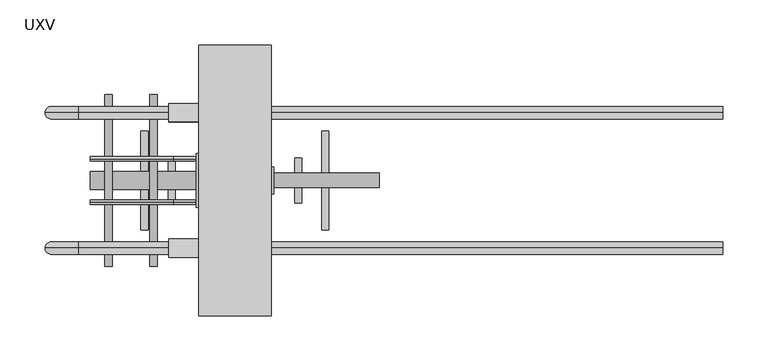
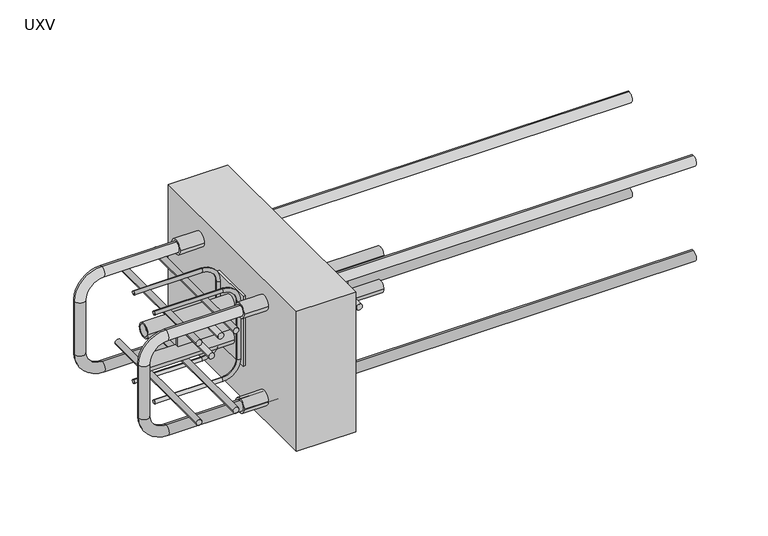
"""IFC4 building model written with IfcOpenShell, lengths in millimetres: proxy geometry, ACINOXplus_Typenreihe_UX : UXV."""

from ifc_helpers import new_model, si_unit, point, frame, frame_2d, origin, place, context, project, spatial, polyline, circle_curve, ellipse_curve, trimmed, segment, composite_curve, outline, extrude, source, transform, mapped, element, save
from ifc_brep_helpers import plane_surface, cylinder_surface, revolved_surface, advanced_brep


def uxv_ace92e51(model_context):
    return source(origin(), model_context, "Body", "SolidModel", [
        extrude(outline(composite_curve([segment(trimmed(circle_curve(frame_2d((-100.0, -100.0)), 4.0), [point((-100.0, -104.0))], [point((-100.0, -96.0))], False, "CARTESIAN"), True, "CONTINUOUS"), segment(trimmed(circle_curve(frame_2d((-100.0, -100.0)), 4.0), [point((-100.0, -96.0))], [point((-100.0, -104.0))], False, "CARTESIAN"), True, "CONTINUOUS")], self_intersect=False)), frame((0.0, -55.0, 0.0), z_axis=(0.0, 1.0, 0.0), x_axis=(0.0, 0.0, 1.0)), (0.0, 0.0, 1.0), 110.0),
        extrude(outline(composite_curve([segment(trimmed(circle_curve(frame_2d((-100.0, -70.0)), 4.0), [point((-100.0, -74.0))], [point((-100.0, -66.0))], False, "CARTESIAN"), True, "CONTINUOUS"), segment(trimmed(circle_curve(frame_2d((-100.0, -70.0)), 4.0), [point((-100.0, -66.0))], [point((-100.0, -74.0))], False, "CARTESIAN"), True, "CONTINUOUS")], self_intersect=False)), frame((0.0, -25.0, 0.0), z_axis=(0.0, 1.0, 0.0), x_axis=(0.0, 0.0, 1.0)), (0.0, 0.0, 1.0), 50.0),
        extrude(outline(composite_curve([segment(trimmed(circle_curve(frame_2d((-100.0, 70.0)), 4.0), [point((-100.0, 66.0))], [point((-100.0, 74.0))], False, "CARTESIAN"), True, "CONTINUOUS"), segment(trimmed(circle_curve(frame_2d((-100.0, 70.0)), 4.0), [point((-100.0, 74.0))], [point((-100.0, 66.0))], False, "CARTESIAN"), True, "CONTINUOUS")], self_intersect=False)), frame((0.0, -25.0, 0.0), z_axis=(0.0, 1.0, 0.0), x_axis=(0.0, 0.0, 1.0)), (0.0, 0.0, 1.0), 50.0),
        extrude(outline(composite_curve([segment(trimmed(circle_curve(frame_2d((-100.0, 100.0)), 4.0), [point((-100.0, 96.0))], [point((-100.0, 104.0))], False, "CARTESIAN"), True, "CONTINUOUS"), segment(trimmed(circle_curve(frame_2d((-100.0, 100.0)), 4.0), [point((-100.0, 104.0))], [point((-100.0, 96.0))], False, "CARTESIAN"), True, "CONTINUOUS")], self_intersect=False)), frame((0.0, -55.0, 0.0), z_axis=(0.0, 1.0, 0.0), x_axis=(0.0, 0.0, 1.0)), (0.0, 0.0, 1.0), 110.0),
        extrude(outline(composite_curve([segment(trimmed(circle_curve(frame_2d((0.0, -124.0)), 8.0), [point((8.0, -124.0))], [point((-8.0, -124.0))], False, "CARTESIAN"), True, "CONTINUOUS"), segment(trimmed(circle_curve(frame_2d((0.0, -124.0)), 8.0), [point((-8.0, -124.0))], [point((8.0, -124.0))], False, "CARTESIAN"), True, "CONTINUOUS")], self_intersect=False)), frame((-160.0, 0.0, 0.0), z_axis=(1.0, 0.0, 0.0), x_axis=(0.0, 1.0, 0.0)), (0.0, 0.0, 1.0), 320.0),
        extrude(outline(composite_curve([segment(trimmed(circle_curve(frame_2d((0.0, -76.0)), 8.0), [point((8.0, -76.0))], [point((-8.0, -76.0))], False, "CARTESIAN"), True, "CONTINUOUS"), segment(trimmed(circle_curve(frame_2d((0.0, -76.0)), 8.0), [point((-8.0, -76.0))], [point((8.0, -76.0))], False, "CARTESIAN"), True, "CONTINUOUS")], self_intersect=False)), frame((-160.0, 0.0, 0.0), z_axis=(1.0, 0.0, 0.0), x_axis=(0.0, 1.0, 0.0)), (0.0, 0.0, 1.0), 320.0),
        advanced_brep(
        [(-43.0, -30.0, -49.8262299), (-43.0, 30.0, -49.8262299), (-43.0, 30.0, -150.0), (-43.0, -30.0, -150.0), (-43.0, -10.0, -76.0), (-43.0, 10.0, -76.0), (-43.0, -10.0, -124.0), (-43.0, 10.0, -124.0), (-43.0, -8.0, -76.0), (-43.0, 8.0, -76.0), (-43.0, -8.0, -124.0), (-43.0, 8.0, -124.0), (-40.0, -30.0, -49.8262299), (-40.0, -30.0, -150.0), (-40.0, 30.0, -150.0), (-40.0, 30.0, -49.8262299), (-160.0, 10.0, -76.0), (-160.0, -10.0, -76.0), (-160.0, 8.0, -76.0), (-160.0, -8.0, -76.0), (-160.0, 10.0, -124.0), (-160.0, -10.0, -124.0), (-160.0, 8.0, -124.0), (-160.0, -8.0, -124.0)],
        [
            (0, 1),
            (1, 2),
            (2, 3),
            (3, 0),
            (4, 5, circle_curve(frame((-43.0, 0.0, -76.0), z_axis=(1.0, 0.0, 0.0), x_axis=(0.0, -1.0, 0.0)), 10.0)),
            (5, 4, circle_curve(frame((-43.0, 0.0, -76.0), z_axis=(1.0, 0.0, 0.0), x_axis=(0.0, -1.0, 0.0)), 10.0)),
            (6, 7, circle_curve(frame((-43.0, 0.0, -124.0), z_axis=(1.0, 0.0, 0.0), x_axis=(0.0, -1.0, 0.0)), 10.0)),
            (7, 6, circle_curve(frame((-43.0, 0.0, -124.0), z_axis=(1.0, 0.0, 0.0), x_axis=(0.0, -1.0, 0.0)), 10.0)),
            (8, 9, circle_curve(frame((-43.0, 0.0, -76.0), z_axis=(-1.0, 0.0, 0.0), x_axis=(0.0, -1.0, 0.0)), 8.0)),
            (9, 8, circle_curve(frame((-43.0, 0.0, -76.0), z_axis=(-1.0, 0.0, 0.0), x_axis=(0.0, -1.0, 0.0)), 8.0)),
            (10, 11, circle_curve(frame((-43.0, 0.0, -124.0), z_axis=(-1.0, 0.0, 0.0), x_axis=(0.0, -1.0, 0.0)), 8.0)),
            (11, 10, circle_curve(frame((-43.0, 0.0, -124.0), z_axis=(-1.0, 0.0, 0.0), x_axis=(0.0, -1.0, 0.0)), 8.0)),
            (12, 13),
            (13, 14),
            (14, 15),
            (15, 12),
            (0, 12),
            (15, 1),
            (14, 2),
            (13, 3),
            (16, 17, circle_curve(frame((-160.0, 0.0, -76.0), z_axis=(-1.0, 0.0, 0.0), x_axis=(0.0, -1.0, 0.0)), 10.0)),
            (17, 16, circle_curve(frame((-160.0, 0.0, -76.0), z_axis=(-1.0, 0.0, 0.0), x_axis=(0.0, -1.0, 0.0)), 10.0)),
            (18, 19, circle_curve(frame((-160.0, 0.0, -76.0), z_axis=(1.0, 0.0, 0.0), x_axis=(0.0, -1.0, 0.0)), 8.0)),
            (19, 18, circle_curve(frame((-160.0, 0.0, -76.0), z_axis=(1.0, 0.0, 0.0), x_axis=(0.0, -1.0, 0.0)), 8.0)),
            (20, 21, circle_curve(frame((-160.0, 0.0, -124.0), z_axis=(-1.0, 0.0, 0.0), x_axis=(0.0, -1.0, 0.0)), 10.0)),
            (21, 20, circle_curve(frame((-160.0, 0.0, -124.0), z_axis=(-1.0, 0.0, 0.0), x_axis=(0.0, -1.0, 0.0)), 10.0)),
            (22, 23, circle_curve(frame((-160.0, 0.0, -124.0), z_axis=(1.0, 0.0, 0.0), x_axis=(0.0, -1.0, 0.0)), 8.0)),
            (23, 22, circle_curve(frame((-160.0, 0.0, -124.0), z_axis=(1.0, 0.0, 0.0), x_axis=(0.0, -1.0, 0.0)), 8.0)),
            (18, 9),
            (8, 19),
            (22, 11),
            (10, 23),
            (16, 5),
            (4, 17),
            (20, 7),
            (6, 21),
        ],
        [
            plane_surface(frame((-43.0, 30.0, -49.8262299), z_axis=(-1.0, 0.0, 0.0), x_axis=(0.0, 1.0, 0.0))),
            plane_surface(frame((-40.0, 30.0, -49.8262299), z_axis=(1.0, 0.0, 0.0), x_axis=(0.0, -1.0, 0.0))),
            plane_surface(frame((-43.0, -30.0, -49.8262299), z_axis=(0.0, 0.0, 1.0), x_axis=(1.0, 0.0, 0.0))),
            plane_surface(frame((-43.0, 30.0, -49.8262299), z_axis=(0.0, 1.0, 0.0), x_axis=(1.0, 0.0, 0.0))),
            plane_surface(frame((-43.0, 30.0, -150.0), z_axis=(0.0, 0.0, -1.0), x_axis=(1.0, 0.0, 0.0))),
            plane_surface(frame((-43.0, -30.0, -150.0), z_axis=(0.0, -1.0, 0.0), x_axis=(1.0, 0.0, 0.0))),
            plane_surface(frame((-160.0, -8.0, -76.0), z_axis=(-1.0, 0.0, 0.0), x_axis=(0.0, 0.0, -1.0))),
            revolved_surface(polyline([(-43.0, -8.0, -76.0), (-160.0, -8.0, -76.0)]), (-43.0, 0.0, -76.0), (1.0, 0.0, 0.0)),
            revolved_surface(polyline([(-43.0, -8.0, -124.0), (-160.0, -8.0, -124.0)]), (0.0, 0.0, -124.0), (1.0, 0.0, 0.0)),
            cylinder_surface(frame((0.0, 0.0, -76.0), z_axis=(-1.0, 0.0, 0.0), x_axis=(0.0, -1.0, 0.0)), 10.0),
            cylinder_surface(frame((0.0, 0.0, -124.0), z_axis=(-1.0, 0.0, 0.0), x_axis=(0.0, -1.0, 0.0)), 10.0),
        ],
        [
            (0, [[1, 2, 3, 4], [5, 6], [7, 8]]),
            (0, [[9, 10]]),
            (0, [[11, 12]]),
            (1, [[13, 14, 15, 16]]),
            (2, [[-1, 17, -16, 18]]),
            (3, [[-2, -18, -15, 19]]),
            (4, [[-3, -19, -14, 20]]),
            (5, [[-4, -20, -13, -17]]),
            (6, [[21, 22], [23, 24]]),
            (6, [[25, 26], [27, 28]]),
            (7, [[-23, 29, -9, 30]]),
            (7, [[-24, -30, -10, -29]]),
            (8, [[-27, 31, -11, 32]]),
            (8, [[-28, -32, -12, -31]]),
            (9, [[-21, 33, -5, 34]]),
            (9, [[-22, -34, -6, -33]]),
            (10, [[-25, 35, -7, 36]]),
            (10, [[-26, -36, -8, -35]]),
        ],
    ),
        extrude(outline(composite_curve([segment(polyline([(15.0, -62.6944568), (15.0, -137.3055432)]), True, "CONTINUOUS"), segment(trimmed(circle_curve(frame_2d((0.0, -74.05999)), 65.0), [point((15.0, -137.3055432))], [point((-15.0, -137.3055432))], False, "CARTESIAN"), True, "CONTINUOUS"), segment(polyline([(-15.0, -137.3055432), (-15.0, -62.6944568)]), True, "CONTINUOUS"), segment(trimmed(circle_curve(frame_2d((0.0, -125.94001)), 65.0), [point((-15.0, -62.6944568))], [point((15.0, -62.6944568))], False, "CARTESIAN"), True, "CONTINUOUS")], self_intersect=False)), frame((40.0, 0.0, 0.0), z_axis=(1.0, 0.0, 0.0), x_axis=(0.0, 1.0, 0.0)), (0.0, 0.0, 1.0), 3.0254417),
        extrude(outline(polyline([(-115.0, 2.0), (115.0, 2.0), (115.0, -2.0), (-115.0, -2.0), (-115.0, 2.0)])), frame((0.0, 0.0, -124.0), z_axis=(0.0, 0.0, 1.0), x_axis=(1.0, 0.0, 0.0)), (0.0, 0.0, 1.0), 48.0),
        extrude(outline(composite_curve([segment(trimmed(circle_curve(frame_2d((-157.0, -90.0)), 4.0), [point((-157.0, -86.0))], [point((-157.0, -94.0))], False, "CARTESIAN"), True, "CONTINUOUS"), segment(trimmed(circle_curve(frame_2d((-157.0, -90.0)), 4.0), [point((-157.0, -94.0))], [point((-157.0, -86.0))], False, "CARTESIAN"), True, "CONTINUOUS")], self_intersect=False)), frame((0.0, -95.0, 0.0), z_axis=(0.0, 1.0, 0.0), x_axis=(0.0, 0.0, 1.0)), (0.0, 0.0, 1.0), 190.0),
        extrude(outline(composite_curve([segment(trimmed(circle_curve(frame_2d((-43.0, -90.0)), 4.0), [point((-43.0, -86.0))], [point((-43.0, -94.0))], False, "CARTESIAN"), True, "CONTINUOUS"), segment(trimmed(circle_curve(frame_2d((-43.0, -90.0)), 4.0), [point((-43.0, -94.0))], [point((-43.0, -86.0))], False, "CARTESIAN"), True, "CONTINUOUS")], self_intersect=False)), frame((0.0, -95.0, 0.0), z_axis=(0.0, 1.0, 0.0), x_axis=(0.0, 0.0, 1.0)), (0.0, 0.0, 1.0), 190.0),
        extrude(outline(composite_curve([segment(trimmed(circle_curve(frame_2d((-43.0, -140.0)), 4.0), [point((-43.0, -136.0))], [point((-43.0, -144.0))], False, "CARTESIAN"), True, "CONTINUOUS"), segment(trimmed(circle_curve(frame_2d((-43.0, -140.0)), 4.0), [point((-43.0, -144.0))], [point((-43.0, -136.0))], False, "CARTESIAN"), True, "CONTINUOUS")], self_intersect=False)), frame((0.0, -95.0, 0.0), z_axis=(0.0, 1.0, 0.0), x_axis=(0.0, 0.0, 1.0)), (0.0, 0.0, 1.0), 190.0),
        extrude(outline(composite_curve([segment(trimmed(circle_curve(frame_2d((-157.0, -140.0)), 4.0), [point((-157.0, -136.0))], [point((-157.0, -144.0))], False, "CARTESIAN"), True, "CONTINUOUS"), segment(trimmed(circle_curve(frame_2d((-157.0, -140.0)), 4.0), [point((-157.0, -144.0))], [point((-157.0, -136.0))], False, "CARTESIAN"), True, "CONTINUOUS")], self_intersect=False)), frame((0.0, -95.0, 0.0), z_axis=(0.0, 1.0, 0.0), x_axis=(0.0, 0.0, 1.0)), (0.0, 0.0, 1.0), 190.0),
        extrude(outline(polyline([(40.0, 150.0), (40.0, -150.0), (-40.0, -150.0), (-40.0, 150.0), (40.0, 150.0)])), frame((0.0, 0.0, -200.0), z_axis=(0.0, 0.0, 1.0), x_axis=(1.0, 0.0, 0.0)), (0.0, 0.0, 1.0), 200.0),
        advanced_brep(
        [(540.0, 75.0, -25.0), (540.0, 75.0, -39.0), (-173.0, 75.0, -25.0), (-173.0, 75.0, -39.0), (-196.0, 75.0, -62.0), (-210.0, 75.0, -62.0), (-210.0, 75.0, -138.0), (-196.0, 75.0, -138.0), (-173.0, 75.0, -161.0), (-173.0, 75.0, -175.0), (540.0, 75.0, -175.0), (540.0, 75.0, -161.0)],
        [
            (0, 1, circle_curve(frame((540.0, 75.0, -32.0), z_axis=(1.0, 0.0, 0.0), x_axis=(0.0, 0.0, -1.0)), 7.0)),
            (1, 0, circle_curve(frame((540.0, 75.0, -32.0), z_axis=(1.0, 0.0, 0.0), x_axis=(0.0, 0.0, -1.0)), 7.0)),
            (0, 2),
            (2, 3, circle_curve(frame((-173.0, 75.0, -32.0), z_axis=(1.0, 0.0, 0.0), x_axis=(0.0, 0.0, -1.0)), 7.0)),
            (3, 1),
            (3, 2, circle_curve(frame((-173.0, 75.0, -32.0), z_axis=(1.0, 0.0, 0.0), x_axis=(0.0, 0.0, -1.0)), 7.0)),
            (4, 3, circle_curve(frame((-173.0, 75.0, -62.0), z_axis=(0.0, 1.0, 0.0), x_axis=(0.0, 0.0, 1.0)), 23.0)),
            (2, 5, circle_curve(frame((-173.0, 75.0, -62.0), z_axis=(0.0, -1.0, 0.0), x_axis=(0.0, 0.0, 1.0)), 37.0)),
            (5, 4, circle_curve(frame((-203.0, 75.0, -62.0), z_axis=(0.0, 0.0, 1.0), x_axis=(1.0, 0.0, 0.0)), 7.0)),
            (4, 5, circle_curve(frame((-203.0, 75.0, -62.0), z_axis=(0.0, 0.0, 1.0), x_axis=(1.0, 0.0, 0.0)), 7.0)),
            (5, 6),
            (6, 7, circle_curve(frame((-203.0, 75.0, -138.0), z_axis=(0.0, 0.0, 1.0), x_axis=(1.0, 0.0, 0.0)), 7.0)),
            (7, 4),
            (7, 6, circle_curve(frame((-203.0, 75.0, -138.0), z_axis=(0.0, 0.0, 1.0), x_axis=(1.0, 0.0, 0.0)), 7.0)),
            (8, 7, circle_curve(frame((-173.0, 75.0, -138.0), z_axis=(0.0, 1.0, 0.0), x_axis=(-1.0, 0.0, 0.0)), 23.0)),
            (6, 9, circle_curve(frame((-173.0, 75.0, -138.0), z_axis=(0.0, -1.0, 0.0), x_axis=(-1.0, 0.0, 0.0)), 37.0)),
            (9, 8, circle_curve(frame((-173.0, 75.0, -168.0), z_axis=(-1.0, 0.0, 0.0), x_axis=(0.0, 0.0, 1.0)), 7.0)),
            (8, 9, circle_curve(frame((-173.0, 75.0, -168.0), z_axis=(-1.0, 0.0, 0.0), x_axis=(0.0, 0.0, 1.0)), 7.0)),
            (10, 11, circle_curve(frame((540.0, 75.0, -168.0), z_axis=(1.0, 0.0, 0.0), x_axis=(0.0, 0.0, 1.0)), 7.0)),
            (11, 10, circle_curve(frame((540.0, 75.0, -168.0), z_axis=(1.0, 0.0, 0.0), x_axis=(0.0, 0.0, 1.0)), 7.0)),
            (9, 10),
            (11, 8),
        ],
        [
            plane_surface(frame((540.0, 75.0, -32.0), z_axis=(1.0, 0.0, 0.0), x_axis=(0.0, -1.0, 0.0))),
            cylinder_surface(frame((540.0, 75.0, -32.0), z_axis=(1.0, 0.0, 0.0), x_axis=(0.0, 0.0, -1.0)), 7.0),
            revolved_surface(trimmed(ellipse_curve(frame((-173.0, 75.0, -32.0), z_axis=(1.0, 0.0, 0.0), x_axis=(0.0, 0.0, -1.0)), 7.0, 7.0), [point((-173.0, 75.0, -25.0))], [point((-173.0, 75.0, -39.0))], True, "CARTESIAN"), (-173.0, 75.0, -62.0), (0.0, -1.0, 0.0)),
            revolved_surface(trimmed(ellipse_curve(frame((-173.0, 75.0, -32.0), z_axis=(1.0, 0.0, 0.0), x_axis=(0.0, 0.0, -1.0)), 7.0, 7.0), [point((-173.0, 75.0, -39.0))], [point((-173.0, 75.0, -25.0))], True, "CARTESIAN"), (-173.0, 75.0, -62.0), (0.0, -1.0, 0.0)),
            cylinder_surface(frame((-203.0, 75.0, -62.0), z_axis=(0.0, 0.0, 1.0), x_axis=(1.0, 0.0, 0.0)), 7.0),
            revolved_surface(trimmed(ellipse_curve(frame((-203.0, 75.0, -138.0), z_axis=(0.0, 0.0, 1.0), x_axis=(1.0, 0.0, 0.0)), 7.0, 7.0), [point((-210.0, 75.0, -138.0))], [point((-196.0, 75.0, -138.0))], True, "CARTESIAN"), (-173.0, 75.0, -138.0), (0.0, -1.0, 0.0)),
            revolved_surface(trimmed(ellipse_curve(frame((-203.0, 75.0, -138.0), z_axis=(0.0, 0.0, 1.0), x_axis=(1.0, 0.0, 0.0)), 7.0, 7.0), [point((-196.0, 75.0, -138.0))], [point((-210.0, 75.0, -138.0))], True, "CARTESIAN"), (-173.0, 75.0, -138.0), (0.0, -1.0, 0.0)),
            plane_surface(frame((540.0, 75.0, -168.0), z_axis=(1.0, 0.0, 0.0), x_axis=(0.0, -1.0, 0.0))),
            cylinder_surface(frame((-173.0, 75.0, -168.0), z_axis=(-1.0, 0.0, 0.0), x_axis=(0.0, 0.0, 1.0)), 7.0),
        ],
        [
            (0, [[1, 2]]),
            (1, [[-1, 3, 4, 5]]),
            (1, [[-2, -5, 6, -3]]),
            (2, [[7, -4, 8, 9]]),
            (3, [[-8, -6, -7, 10]]),
            (4, [[-9, 11, 12, 13]]),
            (4, [[-10, -13, 14, -11]]),
            (5, [[15, -12, 16, 17]]),
            (6, [[-16, -14, -15, 18]]),
            (7, [[19, 20]]),
            (8, [[-17, 21, -20, 22]]),
            (8, [[-18, -22, -19, -21]]),
        ],
    ),
        advanced_brep(
        [(540.0, -75.0, -25.0), (540.0, -75.0, -39.0), (-173.0, -75.0, -25.0), (-173.0, -75.0, -39.0), (-196.0, -75.0, -62.0), (-210.0, -75.0, -62.0), (-210.0, -75.0, -138.0), (-196.0, -75.0, -138.0), (-173.0, -75.0, -161.0), (-173.0, -75.0, -175.0), (540.0, -75.0, -175.0), (540.0, -75.0, -161.0)],
        [
            (0, 1, circle_curve(frame((540.0, -75.0, -32.0), z_axis=(1.0, 0.0, 0.0), x_axis=(0.0, 0.0, -1.0)), 7.0)),
            (1, 0, circle_curve(frame((540.0, -75.0, -32.0), z_axis=(1.0, 0.0, 0.0), x_axis=(0.0, 0.0, -1.0)), 7.0)),
            (0, 2),
            (2, 3, circle_curve(frame((-173.0, -75.0, -32.0), z_axis=(1.0, 0.0, 0.0), x_axis=(0.0, 0.0, -1.0)), 7.0)),
            (3, 1),
            (3, 2, circle_curve(frame((-173.0, -75.0, -32.0), z_axis=(1.0, 0.0, 0.0), x_axis=(0.0, 0.0, -1.0)), 7.0)),
            (4, 3, circle_curve(frame((-173.0, -75.0, -62.0), z_axis=(0.0, 1.0, 0.0), x_axis=(0.0, 0.0, 1.0)), 23.0)),
            (2, 5, circle_curve(frame((-173.0, -75.0, -62.0), z_axis=(0.0, -1.0, 0.0), x_axis=(0.0, 0.0, 1.0)), 37.0)),
            (5, 4, circle_curve(frame((-203.0, -75.0, -62.0), z_axis=(0.0, 0.0, 1.0), x_axis=(1.0, 0.0, 0.0)), 7.0)),
            (4, 5, circle_curve(frame((-203.0, -75.0, -62.0), z_axis=(0.0, 0.0, 1.0), x_axis=(1.0, 0.0, 0.0)), 7.0)),
            (5, 6),
            (6, 7, circle_curve(frame((-203.0, -75.0, -138.0), z_axis=(0.0, 0.0, 1.0), x_axis=(1.0, 0.0, 0.0)), 7.0)),
            (7, 4),
            (7, 6, circle_curve(frame((-203.0, -75.0, -138.0), z_axis=(0.0, 0.0, 1.0), x_axis=(1.0, 0.0, 0.0)), 7.0)),
            (8, 7, circle_curve(frame((-173.0, -75.0, -138.0), z_axis=(0.0, 1.0, 0.0), x_axis=(-1.0, 0.0, 0.0)), 23.0)),
            (6, 9, circle_curve(frame((-173.0, -75.0, -138.0), z_axis=(0.0, -1.0, 0.0), x_axis=(-1.0, 0.0, 0.0)), 37.0)),
            (9, 8, circle_curve(frame((-173.0, -75.0, -168.0), z_axis=(-1.0, 0.0, 0.0), x_axis=(0.0, 0.0, 1.0)), 7.0)),
            (8, 9, circle_curve(frame((-173.0, -75.0, -168.0), z_axis=(-1.0, 0.0, 0.0), x_axis=(0.0, 0.0, 1.0)), 7.0)),
            (10, 11, circle_curve(frame((540.0, -75.0, -168.0), z_axis=(1.0, 0.0, 0.0), x_axis=(0.0, 0.0, 1.0)), 7.0)),
            (11, 10, circle_curve(frame((540.0, -75.0, -168.0), z_axis=(1.0, 0.0, 0.0), x_axis=(0.0, 0.0, 1.0)), 7.0)),
            (9, 10),
            (11, 8),
        ],
        [
            plane_surface(frame((540.0, -75.0, -32.0), z_axis=(1.0, 0.0, 0.0), x_axis=(0.0, -1.0, 0.0))),
            cylinder_surface(frame((540.0, -75.0, -32.0), z_axis=(1.0, 0.0, 0.0), x_axis=(0.0, 0.0, -1.0)), 7.0),
            revolved_surface(trimmed(ellipse_curve(frame((-173.0, -75.0, -32.0), z_axis=(1.0, 0.0, 0.0), x_axis=(0.0, 0.0, -1.0)), 7.0, 7.0), [point((-173.0, -75.0, -25.0))], [point((-173.0, -75.0, -39.0))], True, "CARTESIAN"), (-173.0, -75.0, -62.0), (0.0, -1.0, 0.0)),
            revolved_surface(trimmed(ellipse_curve(frame((-173.0, -75.0, -32.0), z_axis=(1.0, 0.0, 0.0), x_axis=(0.0, 0.0, -1.0)), 7.0, 7.0), [point((-173.0, -75.0, -39.0))], [point((-173.0, -75.0, -25.0))], True, "CARTESIAN"), (-173.0, -75.0, -62.0), (0.0, -1.0, 0.0)),
            cylinder_surface(frame((-203.0, -75.0, -62.0), z_axis=(0.0, 0.0, 1.0), x_axis=(1.0, 0.0, 0.0)), 7.0),
            revolved_surface(trimmed(ellipse_curve(frame((-203.0, -75.0, -138.0), z_axis=(0.0, 0.0, 1.0), x_axis=(1.0, 0.0, 0.0)), 7.0, 7.0), [point((-210.0, -75.0, -138.0))], [point((-196.0, -75.0, -138.0))], True, "CARTESIAN"), (-173.0, -75.0, -138.0), (0.0, -1.0, 0.0)),
            revolved_surface(trimmed(ellipse_curve(frame((-203.0, -75.0, -138.0), z_axis=(0.0, 0.0, 1.0), x_axis=(1.0, 0.0, 0.0)), 7.0, 7.0), [point((-196.0, -75.0, -138.0))], [point((-210.0, -75.0, -138.0))], True, "CARTESIAN"), (-173.0, -75.0, -138.0), (0.0, -1.0, 0.0)),
            plane_surface(frame((540.0, -75.0, -168.0), z_axis=(1.0, 0.0, 0.0), x_axis=(0.0, -1.0, 0.0))),
            cylinder_surface(frame((-173.0, -75.0, -168.0), z_axis=(-1.0, 0.0, 0.0), x_axis=(0.0, 0.0, 1.0)), 7.0),
        ],
        [
            (0, [[1, 2]]),
            (1, [[-1, 3, 4, 5]]),
            (1, [[-2, -5, 6, -3]]),
            (2, [[7, -4, 8, 9]]),
            (3, [[-8, -6, -7, 10]]),
            (4, [[-9, 11, 12, 13]]),
            (4, [[-10, -13, 14, -11]]),
            (5, [[15, -12, 16, 17]]),
            (6, [[-16, -14, -15, 18]]),
            (7, [[19, 20]]),
            (8, [[-17, 21, -20, 22]]),
            (8, [[-18, -22, -19, -21]]),
        ],
    ),
        extrude(outline(composite_curve([segment(trimmed(circle_curve(frame_2d((75.0, -168.0)), 10.0), [point((65.0, -168.0))], [point((85.0, -168.0))], False, "CARTESIAN"), True, "CONTINUOUS"), segment(trimmed(circle_curve(frame_2d((75.0, -168.0)), 10.0), [point((85.0, -168.0))], [point((65.0, -168.0))], False, "CARTESIAN"), True, "CONTINUOUS")], self_intersect=False), holes=[composite_curve([segment(trimmed(circle_curve(frame_2d((75.0, -168.0)), 7.0), [point((68.0, -168.0))], [point((82.0, -168.0))], True, "CARTESIAN"), True, "CONTINUOUS"), segment(trimmed(circle_curve(frame_2d((75.0, -168.0)), 7.0), [point((82.0, -168.0))], [point((68.0, -168.0))], True, "CARTESIAN"), True, "CONTINUOUS")], self_intersect=False)]), frame((-73.0, 0.0, 0.0), z_axis=(1.0, 0.0, 0.0), x_axis=(0.0, 1.0, 0.0)), (0.0, 0.0, 1.0), 33.0),
        extrude(outline(composite_curve([segment(trimmed(circle_curve(frame_2d((-75.0, -168.0)), 10.0), [point((-85.0, -168.0))], [point((-65.0, -168.0))], False, "CARTESIAN"), True, "CONTINUOUS"), segment(trimmed(circle_curve(frame_2d((-75.0, -168.0)), 10.0), [point((-65.0, -168.0))], [point((-85.0, -168.0))], False, "CARTESIAN"), True, "CONTINUOUS")], self_intersect=False), holes=[composite_curve([segment(trimmed(circle_curve(frame_2d((-75.0, -168.0)), 7.0), [point((-82.0, -168.0))], [point((-68.0, -168.0))], True, "CARTESIAN"), True, "CONTINUOUS"), segment(trimmed(circle_curve(frame_2d((-75.0, -168.0)), 7.0), [point((-68.0, -168.0))], [point((-82.0, -168.0))], True, "CARTESIAN"), True, "CONTINUOUS")], self_intersect=False)]), frame((-73.0, 0.0, 0.0), z_axis=(1.0, 0.0, 0.0), x_axis=(0.0, 1.0, 0.0)), (0.0, 0.0, 1.0), 33.0),
        extrude(outline(composite_curve([segment(trimmed(circle_curve(frame_2d((-75.0, -32.0)), 10.0), [point((-85.0, -32.0))], [point((-65.0, -32.0))], False, "CARTESIAN"), True, "CONTINUOUS"), segment(trimmed(circle_curve(frame_2d((-75.0, -32.0)), 10.0), [point((-65.0, -32.0))], [point((-85.0, -32.0))], False, "CARTESIAN"), True, "CONTINUOUS")], self_intersect=False), holes=[composite_curve([segment(trimmed(circle_curve(frame_2d((-75.0, -32.0)), 7.0), [point((-82.0, -32.0))], [point((-68.0, -32.0))], True, "CARTESIAN"), True, "CONTINUOUS"), segment(trimmed(circle_curve(frame_2d((-75.0, -32.0)), 7.0), [point((-68.0, -32.0))], [point((-82.0, -32.0))], True, "CARTESIAN"), True, "CONTINUOUS")], self_intersect=False)]), frame((-73.0, 0.0, 0.0), z_axis=(1.0, 0.0, 0.0), x_axis=(0.0, 1.0, 0.0)), (0.0, 0.0, 1.0), 33.0),
        extrude(outline(composite_curve([segment(trimmed(circle_curve(frame_2d((75.0, -32.0)), 10.0), [point((65.0, -32.0))], [point((85.0, -32.0))], False, "CARTESIAN"), True, "CONTINUOUS"), segment(trimmed(circle_curve(frame_2d((75.0, -32.0)), 10.0), [point((85.0, -32.0))], [point((65.0, -32.0))], False, "CARTESIAN"), True, "CONTINUOUS")], self_intersect=False), holes=[composite_curve([segment(trimmed(circle_curve(frame_2d((75.0, -32.0)), 7.0), [point((68.0, -32.0))], [point((82.0, -32.0))], True, "CARTESIAN"), True, "CONTINUOUS"), segment(trimmed(circle_curve(frame_2d((75.0, -32.0)), 7.0), [point((82.0, -32.0))], [point((68.0, -32.0))], True, "CARTESIAN"), True, "CONTINUOUS")], self_intersect=False)]), frame((-73.0, 0.0, 0.0), z_axis=(1.0, 0.0, 0.0), x_axis=(0.0, 1.0, 0.0)), (0.0, 0.0, 1.0), 33.0),
        advanced_brep(
        [(-160.0, -24.0, -34.0), (-160.0, -24.0, -39.0), (-160.0, -24.0, -166.0), (-160.0, -24.0, -161.0), (-68.0, -24.0, -34.0), (-68.0, -24.0, -39.0), (-48.0, -24.0, -59.0), (-43.0, -24.0, -59.0), (-43.0, -24.0, -141.0), (-48.0, -24.0, -141.0), (-68.0, -24.0, -161.0), (-68.0, -24.0, -166.0)],
        [
            (0, 1, circle_curve(frame((-160.0, -24.0, -36.5), z_axis=(-1.0, 0.0, 0.0), x_axis=(0.0, 0.0, -1.0)), 2.5)),
            (1, 0, circle_curve(frame((-160.0, -24.0, -36.5), z_axis=(-1.0, 0.0, 0.0), x_axis=(0.0, 0.0, -1.0)), 2.5)),
            (2, 3, circle_curve(frame((-160.0, -24.0, -163.5), z_axis=(-1.0, 0.0, 0.0), x_axis=(0.0, 0.0, 1.0)), 2.5)),
            (3, 2, circle_curve(frame((-160.0, -24.0, -163.5), z_axis=(-1.0, 0.0, 0.0), x_axis=(0.0, 0.0, 1.0)), 2.5)),
            (0, 4),
            (4, 5, circle_curve(frame((-68.0, -24.0, -36.5), z_axis=(-1.0, 0.0, 0.0), x_axis=(0.0, 0.0, -1.0)), 2.5)),
            (5, 1),
            (5, 4, circle_curve(frame((-68.0, -24.0, -36.5), z_axis=(-1.0, 0.0, 0.0), x_axis=(0.0, 0.0, -1.0)), 2.5)),
            (6, 5, circle_curve(frame((-68.0, -24.0, -59.0), z_axis=(0.0, -1.0, 0.0), x_axis=(0.0, 0.0, 1.0)), 20.0)),
            (4, 7, circle_curve(frame((-68.0, -24.0, -59.0), z_axis=(0.0, 1.0, 0.0), x_axis=(0.0, 0.0, 1.0)), 25.0)),
            (7, 6, circle_curve(frame((-45.5, -24.0, -59.0), z_axis=(0.0, 0.0, 1.0), x_axis=(-1.0, 0.0, 0.0)), 2.5)),
            (6, 7, circle_curve(frame((-45.5, -24.0, -59.0), z_axis=(0.0, 0.0, 1.0), x_axis=(-1.0, 0.0, 0.0)), 2.5)),
            (7, 8),
            (8, 9, circle_curve(frame((-45.5, -24.0, -141.0), z_axis=(0.0, 0.0, 1.0), x_axis=(-1.0, 0.0, 0.0)), 2.5)),
            (9, 6),
            (9, 8, circle_curve(frame((-45.5, -24.0, -141.0), z_axis=(0.0, 0.0, 1.0), x_axis=(-1.0, 0.0, 0.0)), 2.5)),
            (10, 9, circle_curve(frame((-68.0, -24.0, -141.0), z_axis=(0.0, -1.0, 0.0), x_axis=(1.0, 0.0, 0.0)), 20.0)),
            (8, 11, circle_curve(frame((-68.0, -24.0, -141.0), z_axis=(0.0, 1.0, 0.0), x_axis=(1.0, 0.0, 0.0)), 25.0)),
            (11, 10, circle_curve(frame((-68.0, -24.0, -163.5), z_axis=(1.0, 0.0, 0.0), x_axis=(0.0, 0.0, 1.0)), 2.5)),
            (10, 11, circle_curve(frame((-68.0, -24.0, -163.5), z_axis=(1.0, 0.0, 0.0), x_axis=(0.0, 0.0, 1.0)), 2.5)),
            (11, 2),
            (3, 10),
        ],
        [
            plane_surface(frame((-160.0, -24.0, -39.0), z_axis=(-1.0, 0.0, 0.0), x_axis=(0.0, 1.0, 0.0))),
            plane_surface(frame((-160.0, -24.0, -161.0), z_axis=(-1.0, 0.0, 0.0), x_axis=(0.0, 1.0, 0.0))),
            cylinder_surface(frame((-160.0, -24.0, -36.5), z_axis=(-1.0, 0.0, 0.0), x_axis=(0.0, 0.0, -1.0)), 2.5),
            revolved_surface(trimmed(ellipse_curve(frame((-68.0, -24.0, -36.5), z_axis=(-1.0, 0.0, 0.0), x_axis=(0.0, 0.0, -1.0)), 2.5, 2.5), [point((-68.0, -24.0, -34.0))], [point((-68.0, -24.0, -39.0))], True, "CARTESIAN"), (-68.0, -24.0, -59.0), (0.0, 1.0, 0.0)),
            revolved_surface(trimmed(ellipse_curve(frame((-68.0, -24.0, -36.5), z_axis=(-1.0, 0.0, 0.0), x_axis=(0.0, 0.0, -1.0)), 2.5, 2.5), [point((-68.0, -24.0, -39.0))], [point((-68.0, -24.0, -34.0))], True, "CARTESIAN"), (-68.0, -24.0, -59.0), (0.0, 1.0, 0.0)),
            cylinder_surface(frame((-45.5, -24.0, -59.0), z_axis=(0.0, 0.0, 1.0), x_axis=(-1.0, 0.0, 0.0)), 2.5),
            revolved_surface(trimmed(ellipse_curve(frame((-45.5, -24.0, -141.0), z_axis=(0.0, 0.0, 1.0), x_axis=(-1.0, 0.0, 0.0)), 2.5, 2.5), [point((-43.0, -24.0, -141.0))], [point((-48.0, -24.0, -141.0))], True, "CARTESIAN"), (-68.0, -24.0, -141.0), (0.0, 1.0, 0.0)),
            revolved_surface(trimmed(ellipse_curve(frame((-45.5, -24.0, -141.0), z_axis=(0.0, 0.0, 1.0), x_axis=(-1.0, 0.0, 0.0)), 2.5, 2.5), [point((-48.0, -24.0, -141.0))], [point((-43.0, -24.0, -141.0))], True, "CARTESIAN"), (-68.0, -24.0, -141.0), (0.0, 1.0, 0.0)),
            cylinder_surface(frame((-68.0, -24.0, -163.5), z_axis=(1.0, 0.0, 0.0), x_axis=(0.0, 0.0, 1.0)), 2.5),
        ],
        [
            (0, [[1, 2]]),
            (1, [[3, 4]]),
            (2, [[-1, 5, 6, 7]]),
            (2, [[-2, -7, 8, -5]]),
            (3, [[9, -6, 10, 11]]),
            (4, [[-10, -8, -9, 12]]),
            (5, [[-11, 13, 14, 15]]),
            (5, [[-12, -15, 16, -13]]),
            (6, [[17, -14, 18, 19]]),
            (7, [[-18, -16, -17, 20]]),
            (8, [[-19, 21, -4, 22]]),
            (8, [[-20, -22, -3, -21]]),
        ],
    ),
        advanced_brep(
        [(-160.0, 24.0, -34.0), (-160.0, 24.0, -39.0), (-68.0, 24.0, -34.0), (-68.0, 24.0, -39.0), (-48.0, 24.0, -59.0), (-43.0, 24.0, -59.0), (-43.0, 24.0, -141.0), (-48.0, 24.0, -141.0), (-68.0, 24.0, -161.0), (-68.0, 24.0, -166.0), (-160.0, 24.0, -166.0), (-160.0, 24.0, -161.0)],
        [
            (0, 1, circle_curve(frame((-160.0, 24.0, -36.5), z_axis=(-1.0, 0.0, 0.0), x_axis=(0.0, 0.0, -1.0)), 2.5)),
            (1, 0, circle_curve(frame((-160.0, 24.0, -36.5), z_axis=(-1.0, 0.0, 0.0), x_axis=(0.0, 0.0, -1.0)), 2.5)),
            (0, 2),
            (2, 3, circle_curve(frame((-68.0, 24.0, -36.5), z_axis=(-1.0, 0.0, 0.0), x_axis=(0.0, 0.0, -1.0)), 2.5)),
            (3, 1),
            (3, 2, circle_curve(frame((-68.0, 24.0, -36.5), z_axis=(-1.0, 0.0, 0.0), x_axis=(0.0, 0.0, -1.0)), 2.5)),
            (4, 3, circle_curve(frame((-68.0, 24.0, -59.0), z_axis=(0.0, -1.0, 0.0), x_axis=(0.0, 0.0, 1.0)), 20.0)),
            (2, 5, circle_curve(frame((-68.0, 24.0, -59.0), z_axis=(0.0, 1.0, 0.0), x_axis=(0.0, 0.0, 1.0)), 25.0)),
            (5, 4, circle_curve(frame((-45.5, 24.0, -59.0), z_axis=(0.0, 0.0, 1.0), x_axis=(-1.0, 0.0, 0.0)), 2.5)),
            (4, 5, circle_curve(frame((-45.5, 24.0, -59.0), z_axis=(0.0, 0.0, 1.0), x_axis=(-1.0, 0.0, 0.0)), 2.5)),
            (5, 6),
            (6, 7, circle_curve(frame((-45.5, 24.0, -141.0), z_axis=(0.0, 0.0, 1.0), x_axis=(-1.0, 0.0, 0.0)), 2.5)),
            (7, 4),
            (7, 6, circle_curve(frame((-45.5, 24.0, -141.0), z_axis=(0.0, 0.0, 1.0), x_axis=(-1.0, 0.0, 0.0)), 2.5)),
            (8, 7, circle_curve(frame((-68.0, 24.0, -141.0), z_axis=(0.0, -1.0, 0.0), x_axis=(1.0, 0.0, 0.0)), 20.0)),
            (6, 9, circle_curve(frame((-68.0, 24.0, -141.0), z_axis=(0.0, 1.0, 0.0), x_axis=(1.0, 0.0, 0.0)), 25.0)),
            (9, 8, circle_curve(frame((-68.0, 24.0, -163.5), z_axis=(1.0, 0.0, 0.0), x_axis=(0.0, 0.0, 1.0)), 2.5)),
            (8, 9, circle_curve(frame((-68.0, 24.0, -163.5), z_axis=(1.0, 0.0, 0.0), x_axis=(0.0, 0.0, 1.0)), 2.5)),
            (10, 11, circle_curve(frame((-160.0, 24.0, -163.5), z_axis=(-1.0, 0.0, 0.0), x_axis=(0.0, 0.0, 1.0)), 2.5)),
            (11, 10, circle_curve(frame((-160.0, 24.0, -163.5), z_axis=(-1.0, 0.0, 0.0), x_axis=(0.0, 0.0, 1.0)), 2.5)),
            (9, 10),
            (11, 8),
        ],
        [
            plane_surface(frame((-160.0, 24.0, -39.0), z_axis=(-1.0, 0.0, 0.0), x_axis=(0.0, 1.0, 0.0))),
            cylinder_surface(frame((-160.0, 24.0, -36.5), z_axis=(-1.0, 0.0, 0.0), x_axis=(0.0, 0.0, -1.0)), 2.5),
            revolved_surface(trimmed(ellipse_curve(frame((-68.0, 24.0, -36.5), z_axis=(-1.0, 0.0, 0.0), x_axis=(0.0, 0.0, -1.0)), 2.5, 2.5), [point((-68.0, 24.0, -34.0))], [point((-68.0, 24.0, -39.0))], True, "CARTESIAN"), (-68.0, 24.0, -59.0), (0.0, 1.0, 0.0)),
            revolved_surface(trimmed(ellipse_curve(frame((-68.0, 24.0, -36.5), z_axis=(-1.0, 0.0, 0.0), x_axis=(0.0, 0.0, -1.0)), 2.5, 2.5), [point((-68.0, 24.0, -39.0))], [point((-68.0, 24.0, -34.0))], True, "CARTESIAN"), (-68.0, 24.0, -59.0), (0.0, 1.0, 0.0)),
            cylinder_surface(frame((-45.5, 24.0, -59.0), z_axis=(0.0, 0.0, 1.0), x_axis=(-1.0, 0.0, 0.0)), 2.5),
            revolved_surface(trimmed(ellipse_curve(frame((-45.5, 24.0, -141.0), z_axis=(0.0, 0.0, 1.0), x_axis=(-1.0, 0.0, 0.0)), 2.5, 2.5), [point((-43.0, 24.0, -141.0))], [point((-48.0, 24.0, -141.0))], True, "CARTESIAN"), (-68.0, 24.0, -141.0), (0.0, 1.0, 0.0)),
            revolved_surface(trimmed(ellipse_curve(frame((-45.5, 24.0, -141.0), z_axis=(0.0, 0.0, 1.0), x_axis=(-1.0, 0.0, 0.0)), 2.5, 2.5), [point((-48.0, 24.0, -141.0))], [point((-43.0, 24.0, -141.0))], True, "CARTESIAN"), (-68.0, 24.0, -141.0), (0.0, 1.0, 0.0)),
            plane_surface(frame((-160.0, 24.0, -161.0), z_axis=(-1.0, 0.0, 0.0), x_axis=(0.0, 1.0, 0.0))),
            cylinder_surface(frame((-68.0, 24.0, -163.5), z_axis=(1.0, 0.0, 0.0), x_axis=(0.0, 0.0, 1.0)), 2.5),
        ],
        [
            (0, [[1, 2]]),
            (1, [[-1, 3, 4, 5]]),
            (1, [[-2, -5, 6, -3]]),
            (2, [[7, -4, 8, 9]]),
            (3, [[-8, -6, -7, 10]]),
            (4, [[-9, 11, 12, 13]]),
            (4, [[-10, -13, 14, -11]]),
            (5, [[15, -12, 16, 17]]),
            (6, [[-16, -14, -15, 18]]),
            (7, [[19, 20]]),
            (8, [[-17, 21, -20, 22]]),
            (8, [[-18, -22, -19, -21]]),
        ],
    ),
    ])


if __name__ == "__main__":
    model = new_model("IFC4")
    model_context = context("Model", 3, world=origin())
    ifc_project = project(units=[si_unit("LENGTHUNIT", "METRE", prefix="MILLI")], contexts=[model_context])
    site = spatial("IfcSite", under=ifc_project)
    building = spatial("IfcBuilding", under=site)
    placement = place(None, origin())
    uxv_shape = uxv_ace92e51(model_context)
    element("IfcBuildingElementProxy", 1, Name="ACINOXplus_Typenreihe_UX : UXV", ObjectType="ACINOXplus_Typenreihe_UX : UXV", at=placement, inside=building, context=model_context, shape_type="MappedRepresentation", body=[
        mapped(uxv_shape, transform((0.0, 0.0, 0.0), x_axis=(1.0, 0.0, 0.0), y_axis=(0.0, 1.0, 0.0), z_axis=(0.0, 0.0, 1.0))),
    ])
    save(model, "model.ifc")
